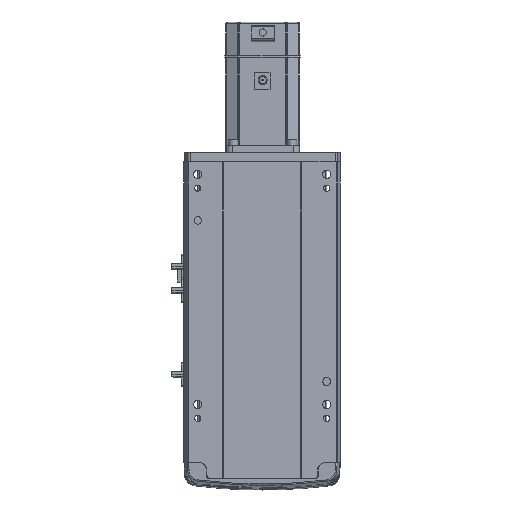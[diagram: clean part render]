
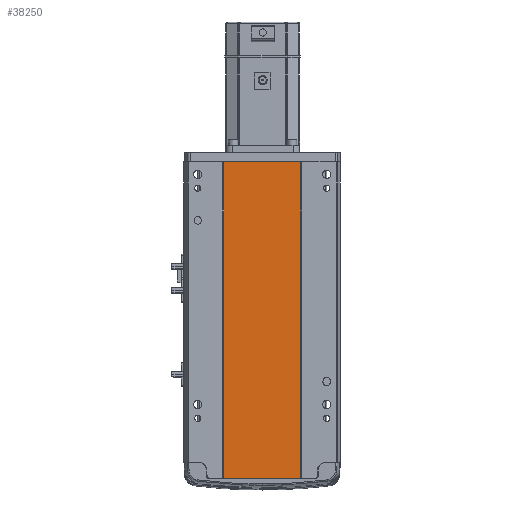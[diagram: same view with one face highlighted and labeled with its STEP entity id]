
A CAD part, front view. The second image highlights one B-rep face of the part: STEP entity #38250.
In plain terms, the highlighted planar face has unit normal (0, -1, 0).
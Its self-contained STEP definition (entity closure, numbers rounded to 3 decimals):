
#3847 = VECTOR ( 'NONE', #41498, 1000. ) ;
#4529 = DIRECTION ( 'NONE',  ( 0., 1., 0. ) ) ;
#8246 = EDGE_CURVE ( 'NONE', #9046, #14256, #35730, .T. ) ;
#9046 = VERTEX_POINT ( 'NONE', #30242 ) ;
#9294 = LINE ( 'NONE', #46346, #32795 ) ;
#10465 = CARTESIAN_POINT ( 'NONE',  ( -41.791, 1., 343.5 ) ) ;
#11108 = VECTOR ( 'NONE', #24835, 1000. ) ;
#13465 = CARTESIAN_POINT ( 'NONE',  ( 41.793, 0.998, 0. ) ) ;
#14256 = VERTEX_POINT ( 'NONE', #13465 ) ;
#14836 = EDGE_CURVE ( 'NONE', #39531, #14256, #37576, .T. ) ;
#14925 = CARTESIAN_POINT ( 'NONE',  ( 41.793, 0.998, 343.5 ) ) ;
#16025 = VERTEX_POINT ( 'NONE', #10465 ) ;
#16353 = EDGE_CURVE ( 'NONE', #16025, #39531, #9294, .T. ) ;
#18057 = AXIS2_PLACEMENT_3D ( 'NONE', #46787, #4529, #20165 ) ;
#19463 = VECTOR ( 'NONE', #46432, 1000. ) ;
#20165 = DIRECTION ( 'NONE',  ( -1., 0., 0. ) ) ;
#21389 = FACE_OUTER_BOUND ( 'NONE', #39586, .T. ) ;
#22955 = DIRECTION ( 'NONE',  ( 0., 0., -1. ) ) ;
#24835 = DIRECTION ( 'NONE',  ( 1., 0., 0. ) ) ;
#25154 = ORIENTED_EDGE ( 'NONE', *, *, #16353, .T. ) ;
#27554 = PLANE ( 'NONE',  #18057 ) ;
#29082 = CARTESIAN_POINT ( 'NONE',  ( -41.791, 1., 0. ) ) ;
#29109 = LINE ( 'NONE', #41903, #19463 ) ;
#30242 = CARTESIAN_POINT ( 'NONE',  ( 41.793, 0.998, 343.5 ) ) ;
#32795 = VECTOR ( 'NONE', #22955, 1000. ) ;
#33785 = ORIENTED_EDGE ( 'NONE', *, *, #8246, .F. ) ;
#35730 = LINE ( 'NONE', #14925, #3847 ) ;
#37576 = LINE ( 'NONE', #40137, #11108 ) ;
#38250 = ADVANCED_FACE ( 'NONE', ( #21389 ), #27554, .F. ) ;
#38373 = ORIENTED_EDGE ( 'NONE', *, *, #39307, .F. ) ;
#39307 = EDGE_CURVE ( 'NONE', #16025, #9046, #29109, .T. ) ;
#39531 = VERTEX_POINT ( 'NONE', #29082 ) ;
#39586 = EDGE_LOOP ( 'NONE', ( #40343, #33785, #38373, #25154 ) ) ;
#40137 = CARTESIAN_POINT ( 'NONE',  ( 0., 0.999, 0. ) ) ;
#40343 = ORIENTED_EDGE ( 'NONE', *, *, #14836, .T. ) ;
#41498 = DIRECTION ( 'NONE',  ( 0., 0., -1. ) ) ;
#41903 = CARTESIAN_POINT ( 'NONE',  ( 0., 0.999, 343.5 ) ) ;
#46346 = CARTESIAN_POINT ( 'NONE',  ( -41.791, 1., 343.5 ) ) ;
#46432 = DIRECTION ( 'NONE',  ( 1., 0., 0. ) ) ;
#46787 = CARTESIAN_POINT ( 'NONE',  ( 0., 0.999, 343.5 ) ) ;
